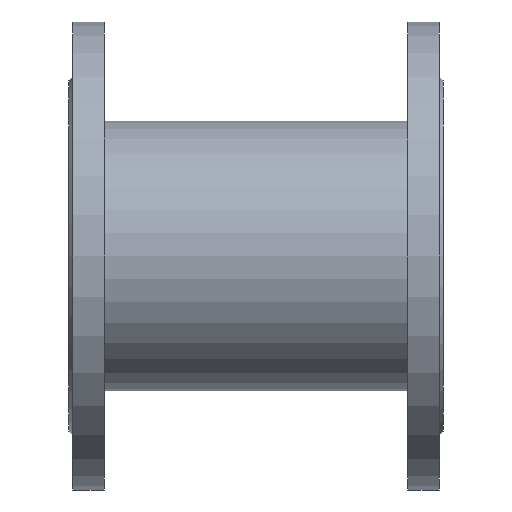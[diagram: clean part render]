
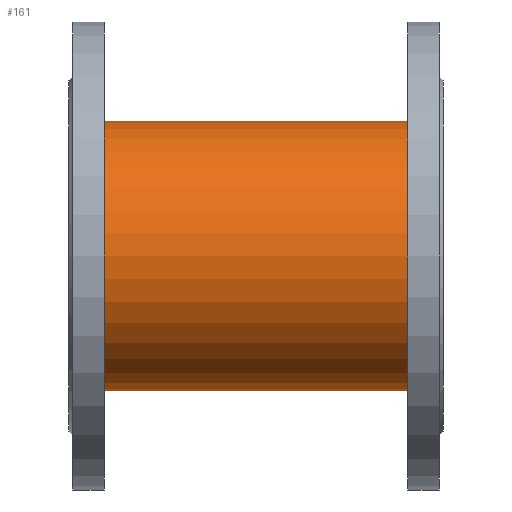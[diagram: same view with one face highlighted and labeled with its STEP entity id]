
A CAD part, front view. The second image highlights one B-rep face of the part: STEP entity #161.
In plain terms, the highlighted cylindrical face has radius 72 mm (diameter 144 mm), a partial arc.
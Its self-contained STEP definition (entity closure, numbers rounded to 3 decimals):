
#161=ADVANCED_FACE('',(#356),#357,.T.);
#356=FACE_OUTER_BOUND('',#618,.T.);
#357=CYLINDRICAL_SURFACE('',#619,72.0);
#618=EDGE_LOOP('',(#941,#942,#943,#944));
#619=AXIS2_PLACEMENT_3D('',#945,#946,#947);
#941=ORIENTED_EDGE('',*,*,#1449,.T.);
#942=ORIENTED_EDGE('',*,*,#1450,.T.);
#943=ORIENTED_EDGE('',*,*,#1451,.T.);
#944=ORIENTED_EDGE('',*,*,#1452,.T.);
#945=CARTESIAN_POINT('',(6.25,0.0,0.));
#946=DIRECTION('',(1.0,0.0,0.));
#947=DIRECTION('',(0.,0.0,-1.0));
#1449=EDGE_CURVE('',#1740,#1741,#1742,.T.);
#1450=EDGE_CURVE('',#1741,#1743,#1744,.T.);
#1451=EDGE_CURVE('',#1743,#1745,#1746,.T.);
#1452=EDGE_CURVE('',#1745,#1740,#1747,.T.);
#1740=VERTEX_POINT('',#2089);
#1741=VERTEX_POINT('',#2090);
#1742=LINE('',#2091,#2092);
#1743=VERTEX_POINT('',#2093);
#1744=CIRCLE('',#2094,72.0);
#1745=VERTEX_POINT('',#2095);
#1746=LINE('',#2096,#2097);
#1747=CIRCLE('',#2098,72.0);
#2089=CARTESIAN_POINT('',(6.25,0.0,-72.0));
#2090=CARTESIAN_POINT('',(193.75,0.0,-72.0));
#2091=CARTESIAN_POINT('',(6.25,0.,-72.0));
#2092=VECTOR('',#2476,1.0);
#2093=CARTESIAN_POINT('',(193.75,0.,72.0));
#2094=AXIS2_PLACEMENT_3D('',#2477,#2478,#2479);
#2095=CARTESIAN_POINT('',(6.25,0.,72.0));
#2096=CARTESIAN_POINT('',(6.25,0.,72.0));
#2097=VECTOR('',#2480,1.0);
#2098=AXIS2_PLACEMENT_3D('',#2481,#2482,#2483);
#2476=DIRECTION('',(1.0,0.0,0.));
#2477=CARTESIAN_POINT('',(193.75,0.0,0.));
#2478=DIRECTION('',(-1.0,-0.0,0.));
#2479=DIRECTION('',(0.,0.0,-1.0));
#2480=DIRECTION('',(-1.0,-0.0,0.));
#2481=CARTESIAN_POINT('',(6.25,0.0,0.));
#2482=DIRECTION('',(1.0,0.0,0.));
#2483=DIRECTION('',(0.,0.0,-1.0));
